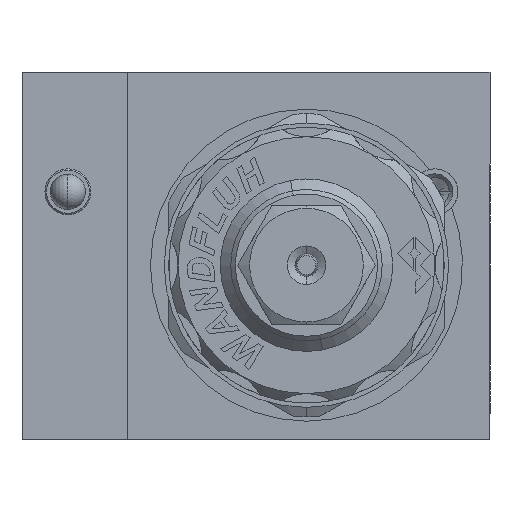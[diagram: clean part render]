
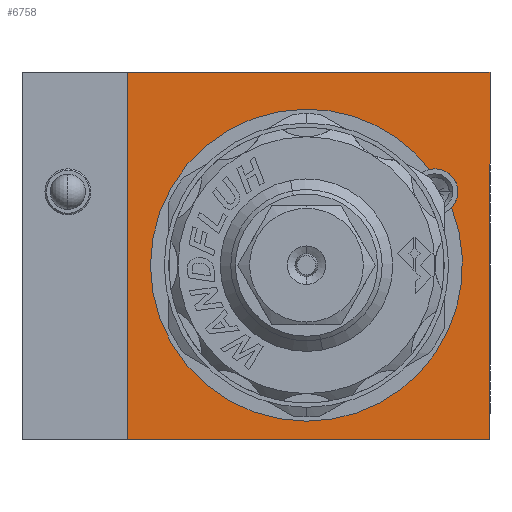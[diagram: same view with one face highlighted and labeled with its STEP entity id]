
A CAD part, left-side view. The second image highlights one B-rep face of the part: STEP entity #6758.
In plain terms, the highlighted planar face has unit normal (-1, 0, 0).
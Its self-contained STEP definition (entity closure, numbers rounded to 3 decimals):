
#46 = EDGE_LOOP ( 'NONE', ( #14188, #12975, #6205, #15830, #13738 ) ) ;
#252 = DIRECTION ( 'NONE',  ( 0., -1., 0. ) ) ;
#294 = VERTEX_POINT ( 'NONE', #5148 ) ;
#477 = VERTEX_POINT ( 'NONE', #20178 ) ;
#822 = AXIS2_PLACEMENT_3D ( 'NONE', #6141, #17971, #7845 ) ;
#1199 = EDGE_LOOP ( 'NONE', ( #14195, #17686, #3383, #15230 ) ) ;
#1205 = FACE_BOUND ( 'NONE', #46, .T. ) ;
#2601 = VERTEX_POINT ( 'NONE', #19797 ) ;
#2653 = CIRCLE ( 'NONE', #12670, 2.5 ) ;
#2903 = CIRCLE ( 'NONE', #11800, 17. ) ;
#3127 = DIRECTION ( 'NONE',  ( -1., 0., 0. ) ) ;
#3350 = VECTOR ( 'NONE', #16607, 1000. ) ;
#3383 = ORIENTED_EDGE ( 'NONE', *, *, #11122, .F. ) ;
#3625 = CIRCLE ( 'NONE', #21034, 17. ) ;
#4088 = VERTEX_POINT ( 'NONE', #18129 ) ;
#4494 = AXIS2_PLACEMENT_3D ( 'NONE', #13423, #13270, #16743 ) ;
#5148 = CARTESIAN_POINT ( 'NONE',  ( 0., -19.75, -20. ) ) ;
#5162 = EDGE_CURVE ( 'NONE', #20984, #2601, #2903, .T. ) ;
#5295 = CARTESIAN_POINT ( 'NONE',  ( 0., 0.25, 16. ) ) ;
#5907 = VERTEX_POINT ( 'NONE', #20224 ) ;
#5914 = CARTESIAN_POINT ( 'NONE',  ( 0., -13.75, 9.5 ) ) ;
#6103 = DIRECTION ( 'NONE',  ( -1., 0., 0. ) ) ;
#6141 = CARTESIAN_POINT ( 'NONE',  ( 0., -13.75, 7. ) ) ;
#6205 = ORIENTED_EDGE ( 'NONE', *, *, #10614, .F. ) ;
#6227 = DIRECTION ( 'NONE',  ( -1., 0., 0. ) ) ;
#6452 = DIRECTION ( 'NONE',  ( 0., 0., 1. ) ) ;
#6473 = CARTESIAN_POINT ( 'NONE',  ( 0., -19.75, -20. ) ) ;
#6758 = ADVANCED_FACE ( 'NONE', ( #10719, #1205 ), #19991, .F. ) ;
#7845 = DIRECTION ( 'NONE',  ( 0., 0., 1. ) ) ;
#8160 = CARTESIAN_POINT ( 'NONE',  ( 0., 0.25, -1. ) ) ;
#8388 = DIRECTION ( 'NONE',  ( 0., 0., -1. ) ) ;
#9130 = CARTESIAN_POINT ( 'NONE',  ( 0., 19.75, -20. ) ) ;
#10223 = CIRCLE ( 'NONE', #14427, 17. ) ;
#10385 = CARTESIAN_POINT ( 'NONE',  ( 0., -19.75, 20. ) ) ;
#10418 = VERTEX_POINT ( 'NONE', #5914 ) ;
#10481 = EDGE_CURVE ( 'NONE', #2601, #10418, #19483, .T. ) ;
#10614 = EDGE_CURVE ( 'NONE', #18029, #20984, #10223, .T. ) ;
#10719 = FACE_OUTER_BOUND ( 'NONE', #1199, .T. ) ;
#11122 = EDGE_CURVE ( 'NONE', #294, #4088, #20760, .T. ) ;
#11149 = LINE ( 'NONE', #16803, #15120 ) ;
#11800 = AXIS2_PLACEMENT_3D ( 'NONE', #8160, #18294, #6452 ) ;
#12670 = AXIS2_PLACEMENT_3D ( 'NONE', #16356, #6227, #18058 ) ;
#12975 = ORIENTED_EDGE ( 'NONE', *, *, #5162, .F. ) ;
#13219 = CARTESIAN_POINT ( 'NONE',  ( 0., 0.25, -1. ) ) ;
#13248 = EDGE_CURVE ( 'NONE', #13389, #294, #11149, .T. ) ;
#13270 = DIRECTION ( 'NONE',  ( 1., 0., 0. ) ) ;
#13389 = VERTEX_POINT ( 'NONE', #13847 ) ;
#13423 = CARTESIAN_POINT ( 'NONE',  ( 0., 19.75, 20. ) ) ;
#13510 = EDGE_CURVE ( 'NONE', #4088, #477, #15634, .T. ) ;
#13738 = ORIENTED_EDGE ( 'NONE', *, *, #18848, .F. ) ;
#13847 = CARTESIAN_POINT ( 'NONE',  ( 0., -19.75, 20. ) ) ;
#14188 = ORIENTED_EDGE ( 'NONE', *, *, #10481, .F. ) ;
#14195 = ORIENTED_EDGE ( 'NONE', *, *, #14800, .F. ) ;
#14427 = AXIS2_PLACEMENT_3D ( 'NONE', #13219, #3127, #14935 ) ;
#14570 = EDGE_CURVE ( 'NONE', #5907, #18029, #3625, .T. ) ;
#14716 = LINE ( 'NONE', #10385, #18686 ) ;
#14800 = EDGE_CURVE ( 'NONE', #477, #13389, #14716, .T. ) ;
#14935 = DIRECTION ( 'NONE',  ( 0., 0., 1. ) ) ;
#15102 = VECTOR ( 'NONE', #20900, 1000. ) ;
#15120 = VECTOR ( 'NONE', #8388, 1000. ) ;
#15230 = ORIENTED_EDGE ( 'NONE', *, *, #13248, .F. ) ;
#15634 = LINE ( 'NONE', #9130, #15102 ) ;
#15830 = ORIENTED_EDGE ( 'NONE', *, *, #14570, .F. ) ;
#16230 = CARTESIAN_POINT ( 'NONE',  ( 0., 0.25, -1. ) ) ;
#16356 = CARTESIAN_POINT ( 'NONE',  ( 0., -13.75, 7. ) ) ;
#16607 = DIRECTION ( 'NONE',  ( 0., 1., 0. ) ) ;
#16743 = DIRECTION ( 'NONE',  ( 0., 0., -1. ) ) ;
#16803 = CARTESIAN_POINT ( 'NONE',  ( 0., -19.75, -20. ) ) ;
#17567 = CARTESIAN_POINT ( 'NONE',  ( 0., 0.25, -18. ) ) ;
#17686 = ORIENTED_EDGE ( 'NONE', *, *, #13510, .F. ) ;
#17932 = DIRECTION ( 'NONE',  ( 0., 0., 1. ) ) ;
#17971 = DIRECTION ( 'NONE',  ( -1., 0., 0. ) ) ;
#18029 = VERTEX_POINT ( 'NONE', #5295 ) ;
#18058 = DIRECTION ( 'NONE',  ( 0., 0., 1. ) ) ;
#18129 = CARTESIAN_POINT ( 'NONE',  ( 0., 19.75, -20. ) ) ;
#18294 = DIRECTION ( 'NONE',  ( -1., 0., 0. ) ) ;
#18686 = VECTOR ( 'NONE', #252, 1000. ) ;
#18848 = EDGE_CURVE ( 'NONE', #10418, #5907, #2653, .T. ) ;
#19483 = CIRCLE ( 'NONE', #822, 2.5 ) ;
#19797 = CARTESIAN_POINT ( 'NONE',  ( 0., -15.552, 5.268 ) ) ;
#19991 = PLANE ( 'NONE',  #4494 ) ;
#20178 = CARTESIAN_POINT ( 'NONE',  ( 0., 19.75, 20. ) ) ;
#20224 = CARTESIAN_POINT ( 'NONE',  ( 0., -13.173, 9.432 ) ) ;
#20760 = LINE ( 'NONE', #6473, #3350 ) ;
#20900 = DIRECTION ( 'NONE',  ( 0., 0., 1. ) ) ;
#20984 = VERTEX_POINT ( 'NONE', #17567 ) ;
#21034 = AXIS2_PLACEMENT_3D ( 'NONE', #16230, #6103, #17932 ) ;
